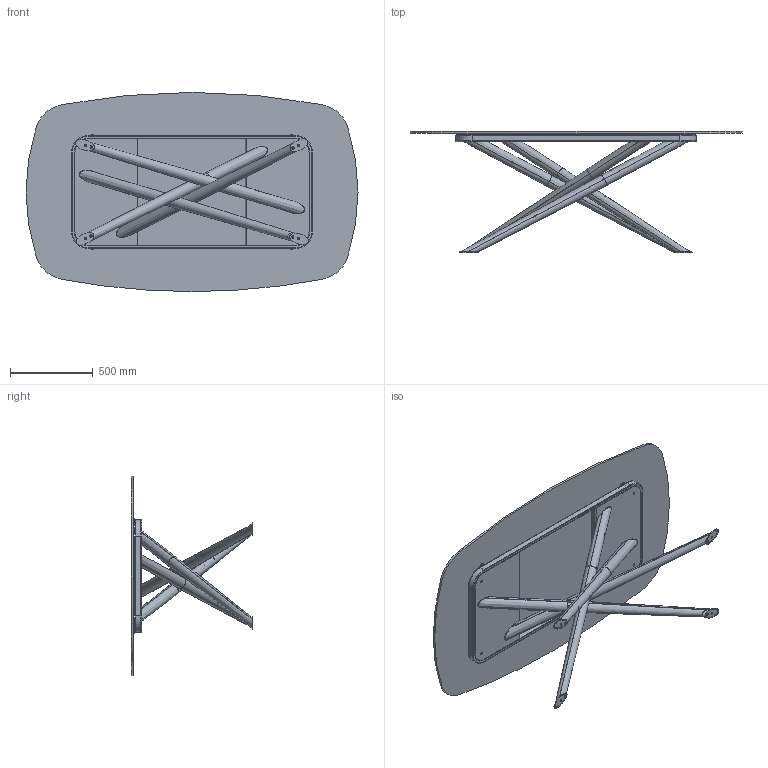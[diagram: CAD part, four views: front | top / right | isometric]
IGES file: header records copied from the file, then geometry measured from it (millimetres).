
Start section: SolidWorks IGES file using analytic representation for surfaces
Global section: file name: Y:\eforma\TECNICO\SOLIDWORKS\E-FORMA\1-TAVOLI\BALY\02 parts\BA41G.IGS; native system: SolidWorks 2022; preprocessor: SolidWorks 2022; author: eforma.tech; date: 240808.080605; units: millimetre
Bounding box: 2000 x 731 x 1200 mm (x, y, z)
Volume: 31861102.8 mm3; surface area: 8648661.2 mm2
Topology: 39 solids, 39 shells, 685 faces, 1383 edges, 770 vertices
Faces by surface type: revolution 357, plane 310, bspline 18
